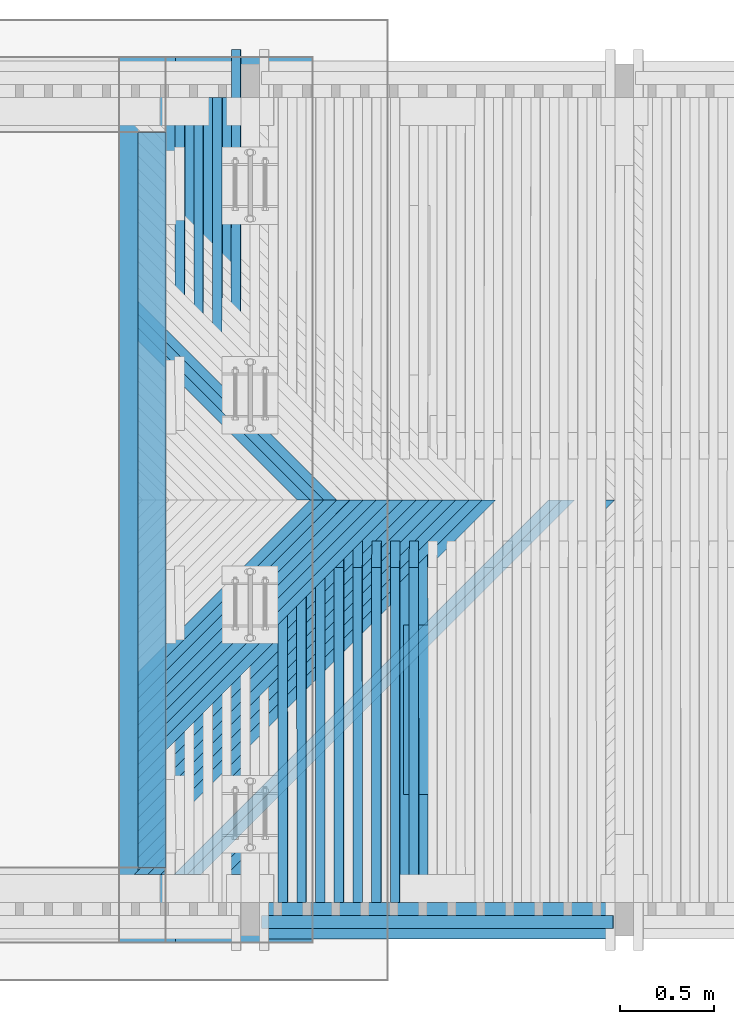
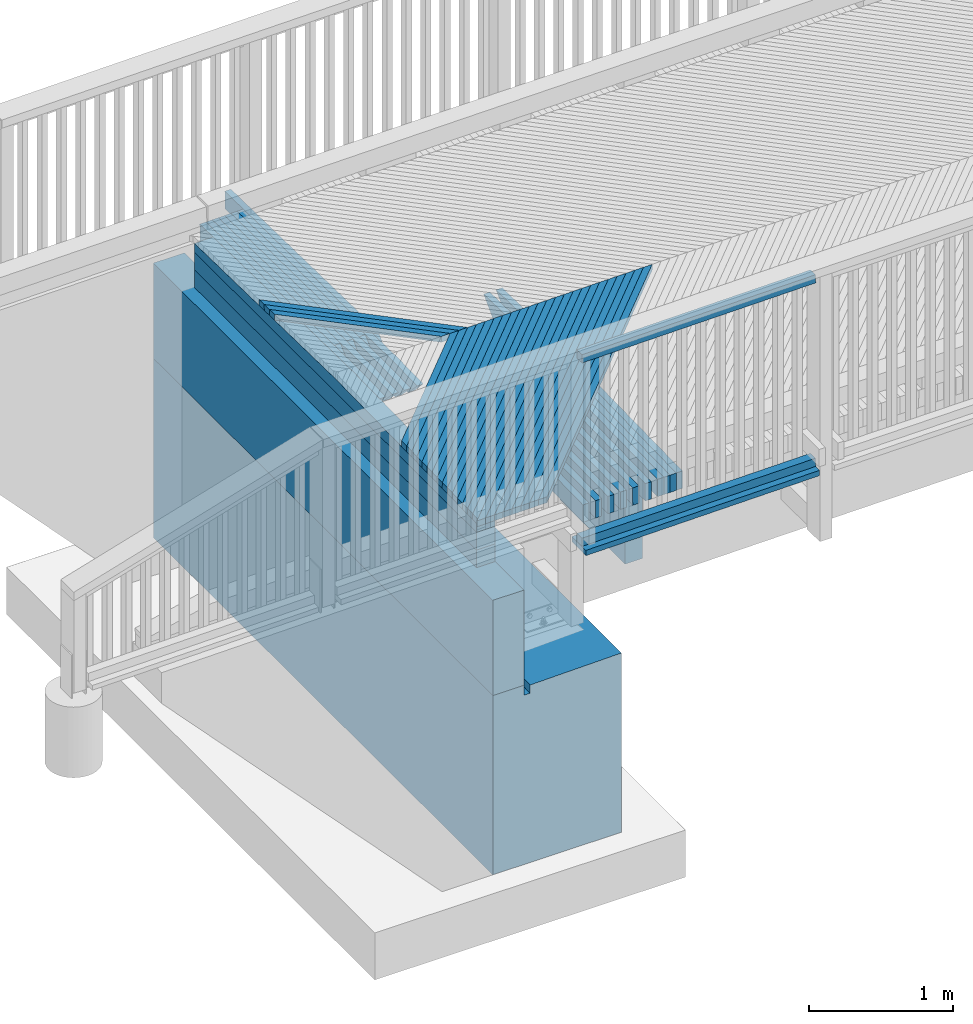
# One storey, part 17 of 52: 53 beams.
"""IFC2X3 building model written with IfcOpenShell, lengths in millimetres."""

from ifc_helpers import new_model, si_unit, frame, origin_with_axes, place, context, subcontext, project, spatial, faceted_brep, material, type_object, element, save


model = new_model("IFC2X3")

# Units and contexts
model_context = context("Model", 3, precision=1e-05, world=origin_with_axes())
body_context = subcontext(model_context, "Body", "Model", "MODEL_VIEW")
ifc_project = project(units=[si_unit("LENGTHUNIT", "METRE", prefix="MILLI"), si_unit("AREAUNIT", "SQUARE_METRE"), si_unit("VOLUMEUNIT", "CUBIC_METRE"), si_unit("MASSUNIT", "GRAM", prefix="KILO"), si_unit("TIMEUNIT", "SECOND"), si_unit("PLANEANGLEUNIT", "RADIAN"), si_unit("SOLIDANGLEUNIT", "STERADIAN"), si_unit("THERMODYNAMICTEMPERATUREUNIT", "DEGREE_CELSIUS"), si_unit("LUMINOUSINTENSITYUNIT", "LUMEN")], contexts=[model_context])

# Site, building, storey
site_placement = place(None, origin_with_axes())
site = spatial("IfcSite", under=ifc_project, at=site_placement, Name="Undefined", CompositionType="ELEMENT")
building_placement = place(site_placement, origin_with_axes())
building = spatial("IfcBuilding", under=site, at=building_placement, Name="Undefined", CompositionType="ELEMENT")
storey_placement = place(building_placement, origin_with_axes())
storey = spatial("IfcBuildingStorey", under=building, at=storey_placement, Name="Undefined", CompositionType="ELEMENT", Elevation=0.0)

# Beams
ifc_material_1 = material(Name="TIMBER/Timber_Undefined")
beam_type_1 = type_object("IfcBeamType", Name="150*150", PredefinedType="NOTDEFINED")
beam_1_placement = place(storey_placement, frame((-525.0, 399.999275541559, 3109.00000000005), z_axis=(-1.0, 0.0, 0.0), x_axis=(0.0, 1.0, 0.0)))
element("IfcBeam", 1, at=beam_1_placement, inside=storey, type_object=beam_type_1, material=ifc_material_1, Name="BEAM", ObjectType="150*150", context=body_context, shape_type="Brep", body=[
    faceted_brep([(3.63797880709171e-12, 75.0000000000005, -75.0), (3.63797880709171e-12, 75.0000000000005, 75.0), (3930.0, 75.0, 75.0), (3930.0, 75.0, -75.0), (3930.0, -0.55802813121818, 75.0), (3930.0, -3.17681141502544, -75.0), (1965.00070282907, -42.4729688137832, -75.0), (0.0, -3.17678330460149, -75.0), (0.0, -0.55800002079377, 75.0), (1965.00070282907, -39.8541855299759, 75.0)], [[[0, 1, 2, 3]], [[3, 2, 4, 5]], [[0, 3, 5, 6, 7]], [[1, 0, 7, 8]], [[4, 2, 1, 8, 9]], [[5, 4, 9, 6]], [[8, 7, 6, 9]]]),
])
for number, where, z_axis, x_axis, name in (
    (2, (-525.0, 399.999275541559, 2959.00000000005), (-1.0, 0.0, 0.0), (0.0, 1.0, 0.0), "BEAM"),
    (3, (-525.0, 399.999275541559, 2809.00000000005), (-1.0, 0.0, 0.0), (0.0, 1.0, 0.0), "BEAM"),
):
    element("IfcBeam", number, at=place(storey_placement, frame(where, z_axis=z_axis, x_axis=x_axis)), inside=storey, type_object=beam_type_1, material=ifc_material_1, Name=name, ObjectType="150*150", context=body_context, shape_type="Brep", body=[
        faceted_brep([(3.63797880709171e-12, 75.0000000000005, -75.0), (3.63797880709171e-12, 75.0000000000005, 75.0), (3930.0, 75.0, 75.0), (3930.0, 75.0, -75.0), (0.0, -75.0000000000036, 75.0000000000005), (3930.0, -75.0, 75.0), (0.0, -75.0, -74.9999999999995), (3930.0, -75.0, -75.0)], [[[0, 1, 2, 3]], [[1, 4, 5, 2]], [[4, 6, 7, 5]], [[6, 0, 3, 7]], [[5, 7, 3, 2]], [[6, 4, 1, 0]]]),
    ])
ifc_material_2 = material(Name="CONCRETE/Concrete_Undefined")
beam_type_2 = type_object("IfcBeamType", Name="810*250", PredefinedType="NOTDEFINED")
beam_2_placement = place(storey_placement, frame((-575.0, 0.0, 2329.0), z_axis=(0.0, 0.0, 1.0), x_axis=(0.0, 1.0, 0.0)))
element("IfcBeam", 4, at=beam_2_placement, inside=storey, type_object=beam_type_2, material=ifc_material_2, Name="OTSAMUURI", ObjectType="810*250", context=body_context, shape_type="Brep", body=[
    faceted_brep([(0.0, 125.0, -405.0), (0.0, 125.0, 405.0), (4730.0, 125.0, 405.0), (4730.0, 125.0, -405.0), (0.0, -125.0, 405.0), (4730.0, -125.0, 405.0), (0.0, -125.0, -405.0), (4730.0, -125.0, -405.0)], [[[0, 1, 2, 3]], [[1, 4, 5, 2]], [[4, 6, 7, 5]], [[6, 0, 3, 7]], [[5, 7, 3, 2]], [[6, 4, 1, 0]]]),
])
beam_type_3 = type_object("IfcBeamType", Name="1524*1035", PredefinedType="NOTDEFINED")
beam_3_placement = place(storey_placement, frame((-182.5, 4.54747350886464e-13, 1162.0), z_axis=(0.0, 0.0, 1.0), x_axis=(0.0, 1.0, 0.0)))
element("IfcBeam", 5, at=beam_3_placement, inside=storey, type_object=beam_type_3, material=ifc_material_2, Name="LAAKERIPALKKI", ObjectType="1524*1035", context=body_context, shape_type="Brep", body=[
    faceted_brep([(4730.0, 267.5, 762.0), (2366.92526672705, 267.5, 762.0), (2367.55223388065, 267.5, 737.442575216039), (4730.0, 267.5, 676.997414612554), (2367.55223388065, 217.5, 737.442575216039), (4730.0, 217.5, 676.997414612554), (4730.0, 217.500000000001, 747.0), (2367.30822656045, 217.5, 747.0), (0.0, 217.5, 676.997414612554), (0.0, 267.5, 676.997414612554), (0.0, 267.5, 762.0), (0.0, 517.5, 762.0), (0.0, 517.5, -762.0), (0.0, -517.5, -762.0), (0.0, -517.5, 762.0), (0.0, 217.5, 747.0), (4730.0, 517.5, -762.0), (4730.0, 517.5, 762.0), (4730.0, -517.5, -762.0), (4730.0, -517.5, 762.0), (2362.69177343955, 217.5, 747.0), (2362.45109111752, 217.5, 737.312339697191), (2362.45109111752, 267.5, 737.312339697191), (2363.07473327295, 267.5, 762.0)], [[[0, 1, 2, 3]], [[3, 2, 4, 5]], [[6, 5, 4, 7]], [[8, 9, 10, 11, 12, 13, 14, 15]], [[16, 12, 11, 17]], [[13, 12, 16, 18]], [[14, 13, 18, 19]], [[20, 15, 14, 19, 6, 7]], [[7, 4, 21, 8, 15, 20]], [[8, 21, 4, 2, 22, 9]], [[23, 10, 9, 22, 2, 1]], [[17, 11, 10, 23, 1, 0]], [[19, 18, 16, 17, 0, 3, 5, 6]]]),
])
beam_type_4 = type_object("IfcBeamType", Name="70*70", PredefinedType="NOTDEFINED")
for number, where, z_axis, x_axis, name in (
    (6, (60.4266460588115, 110.009944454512, 2915.38471475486), (0.0, -1.0, 0.0), (0.999925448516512, 0.0, 0.0122105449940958), "BEAM"),
    (7, (60.4266460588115, 110.009944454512, 4475.38471475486), (0.0, -1.0, 0.0), (0.999925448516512, 0.0, 0.0122105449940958), "BEAM"),
):
    element("IfcBeam", number, at=place(storey_placement, frame(where, z_axis=z_axis, x_axis=x_axis)), inside=storey, type_object=beam_type_4, material=ifc_material_1, Name=name, ObjectType="70*70", context=body_context, shape_type="Brep", body=[
        faceted_brep([(-3.63797880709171e-12, 35.0000000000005, -35.0), (-3.63797880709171e-12, 35.0000000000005, 35.0), (1880.14172547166, 35.0, 35.0), (1880.14172547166, 35.0, -35.0), (-3.63797880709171e-12, -34.9999999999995, 35.0), (1880.14172547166, -35.0, 35.0), (-3.63797880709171e-12, -34.9999999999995, -35.0), (1880.14172547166, -35.0, -35.0)], [[[0, 1, 2, 3]], [[1, 4, 5, 2]], [[4, 6, 7, 5]], [[6, 0, 3, 7]], [[5, 7, 3, 2]], [[6, 4, 1, 0]]]),
    ])
beam_type_5 = type_object("IfcBeamType", Name="945*140", PredefinedType="NOTDEFINED")
beam_4_placement = place(storey_placement, frame((891.0, 1697.5, 2500.3779002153), z_axis=(0.0, 0.0, 1.0), x_axis=(0.0, -1.0, 0.0)))
element("IfcBeam", 8, at=beam_4_placement, inside=storey, type_object=beam_type_5, material=ifc_material_1, Name="PALKKI", ObjectType="945*140", context=body_context, shape_type="Brep", body=[
    faceted_brep([(0.0, 70.0, -472.5), (0.0, 70.0, 472.5), (905.0, 70.0, 472.5), (905.0, 70.0, -472.5), (0.0, -70.0, 472.5), (905.0, -70.0, 472.5), (0.0, -70.0, -472.5), (905.0, -70.0, -472.5)], [[[0, 1, 2, 3]], [[1, 4, 5, 2]], [[4, 6, 7, 5]], [[6, 0, 3, 7]], [[5, 7, 3, 2]], [[6, 4, 1, 0]]]),
])
beam_type_6 = type_object("IfcBeamType", Name="50*50", PredefinedType="NOTDEFINED")
beam_5_placement = place(storey_placement, frame((285.627712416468, 2365.49989967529, 3186.70087009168), z_axis=(0.707221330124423, 0.706981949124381, -0.00380970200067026), x_axis=(-0.70684136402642, 0.706948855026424, -0.0244663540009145)))
element("IfcBeam", 9, at=beam_5_placement, inside=storey, type_object=beam_type_6, material=ifc_material_1, Name="BEAM", ObjectType="50*50", context=body_context, shape_type="Brep", body=[
    faceted_brep([(25.0011701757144, -25.0, -25.0), (-25.0011704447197, -25.0, 24.9999999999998), (-26.4154158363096, 25.0000000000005, 24.9999999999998), (23.5869248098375, 25.0, -25.0000000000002), (1277.43393563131, 25.0000000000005, 25.0), (1227.40705788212, 25.0000000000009, -25.0000000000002), (1228.44010482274, -24.9999999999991, -25.0), (1278.46698257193, -24.9999999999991, 25.0000000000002)], [[[0, 1, 2, 3]], [[3, 2, 4, 5]], [[0, 3, 5, 6]], [[1, 0, 6, 7]], [[2, 1, 7, 4]], [[6, 5, 4, 7]]]),
])
beam_6_placement = place(storey_placement, frame((356.346193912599, 2364.50010032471, 3187.60285202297), z_axis=(0.707220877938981, -0.706981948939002, -0.00389277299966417), x_axis=(-0.706844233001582, -0.706948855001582, -0.0243833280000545)))
element("IfcBeam", 10, at=beam_6_placement, inside=storey, type_object=beam_type_6, material=ifc_material_1, Name="BEAM", ObjectType="50*50", context=body_context, shape_type="Brep", body=[
    faceted_brep([(23.4806436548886, -25.0, -25.0), (-26.4222658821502, -25.0, 24.9999999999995), (-25.0086637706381, 24.9999999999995, 24.9999999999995), (24.894245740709, 25.0, -25.0), (1328.47916507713, 25.0000000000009, -25.0000000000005), (1327.45442860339, -24.9999999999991, -25.0000000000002), (1377.48107131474, -24.9999999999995, 24.9999999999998), (1378.50580778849, 25.0, 24.9999999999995)], [[[0, 1, 2, 3]], [[0, 3, 4, 5]], [[1, 0, 5, 6]], [[2, 1, 6, 7]], [[3, 2, 7, 4]], [[6, 5, 4, 7]]]),
])
beam_7_placement = place(storey_placement, frame((356.346193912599, 2365.49989967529, 3187.60285202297), z_axis=(0.707220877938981, 0.706981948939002, -0.00389277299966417), x_axis=(-0.706844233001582, 0.706948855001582, -0.0243833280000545)))
element("IfcBeam", 11, at=beam_7_placement, inside=storey, type_object=beam_type_6, material=ifc_material_1, Name="BEAM", ObjectType="50*50", context=body_context, shape_type="Brep", body=[
    faceted_brep([(25.0011701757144, -25.0, -25.0), (-25.0011704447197, -25.0, 24.9999999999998), (-26.4154158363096, 25.0000000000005, 24.9999999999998), (23.5869248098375, 25.0, -25.0000000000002), (1377.48107131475, 25.0, 24.9999999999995), (1327.4544286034, 24.9999999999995, -24.9999999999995), (1328.47916507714, -25.0000000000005, -25.0000000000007), (1378.50580778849, -24.9999999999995, 25.0)], [[[0, 1, 2, 3]], [[3, 2, 4, 5]], [[0, 3, 5, 6]], [[1, 0, 6, 7]], [[2, 1, 7, 4]], [[6, 5, 4, 7]]]),
])
beam_8_placement = place(storey_placement, frame((427.06478086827, 2364.50010032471, 3188.49652730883), z_axis=(0.707220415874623, -0.706981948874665, -0.00397584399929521), x_axis=(-0.706847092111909, -0.706948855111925, -0.0243003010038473)))
element("IfcBeam", 12, at=beam_8_placement, inside=storey, type_object=beam_type_6, material=ifc_material_1, Name="BEAM", ObjectType="50*50", context=body_context, shape_type="Brep", body=[
    faceted_brep([(23.4806436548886, -25.0, -25.0), (-26.4222658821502, -25.0, 24.9999999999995), (-25.0086637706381, 24.9999999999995, 24.9999999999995), (24.894245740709, 25.0, -25.0), (1428.51758270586, 24.9999999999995, -25.0), (1427.50115666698, -25.0000000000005, -25.0), (1477.52756434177, -25.0, 24.9999999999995), (1478.54399038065, 24.9999999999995, 24.9999999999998)], [[[0, 1, 2, 3]], [[0, 3, 4, 5]], [[1, 0, 5, 6]], [[2, 1, 6, 7]], [[3, 2, 7, 4]], [[6, 5, 4, 7]]]),
])
beam_9_placement = place(storey_placement, frame((427.06478086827, 2365.49989967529, 3188.49652730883), z_axis=(0.707220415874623, 0.706981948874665, -0.00397584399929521), x_axis=(-0.706847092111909, 0.706948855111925, -0.0243003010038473)))
element("IfcBeam", 13, at=beam_9_placement, inside=storey, type_object=beam_type_6, material=ifc_material_1, Name="BEAM", ObjectType="50*50", context=body_context, shape_type="Brep", body=[
    faceted_brep([(25.0011701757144, -25.0, -25.0), (-25.0011704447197, -25.0, 24.9999999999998), (-26.4154158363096, 25.0000000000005, 24.9999999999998), (23.5869248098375, 25.0, -25.0000000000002), (1477.52756434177, 24.9999999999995, 24.9999999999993), (1427.50115666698, 25.0, -25.0), (1428.51758270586, -25.0, -24.9999999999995), (1478.54399038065, -25.0000000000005, 25.0)], [[[0, 1, 2, 3]], [[3, 2, 4, 5]], [[0, 3, 5, 6]], [[1, 0, 6, 7]], [[2, 1, 7, 4]], [[6, 5, 4, 7]]]),
])
beam_10_placement = place(storey_placement, frame((497.783472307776, 2364.50010032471, 3189.38189593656), z_axis=(0.707219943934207, -0.706981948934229, -0.00405891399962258), x_axis=(-0.706849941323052, -0.706948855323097, -0.024217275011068)))
element("IfcBeam", 14, at=beam_10_placement, inside=storey, type_object=beam_type_6, material=ifc_material_1, Name="BEAM", ObjectType="50*50", context=body_context, shape_type="Brep", body=[
    faceted_brep([(23.4806436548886, -25.0, -25.0), (-26.4222658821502, -25.0, 24.9999999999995), (-25.0086637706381, 24.9999999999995, 24.9999999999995), (24.894245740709, 25.0, -25.0), (1528.55536067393, 25.0000000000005, -25.0), (1527.54724488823, -24.9999999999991, -24.9999999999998), (1577.57341753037, -25.0, 25.0), (1578.58153331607, 25.0, 25.0)], [[[0, 1, 2, 3]], [[0, 3, 4, 5]], [[1, 0, 5, 6]], [[2, 1, 6, 7]], [[3, 2, 7, 4]], [[6, 5, 4, 7]]]),
])
beam_11_placement = place(storey_placement, frame((568.50226725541, 2364.50010032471, 3190.25895789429), z_axis=(0.707219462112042, -0.706981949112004, -0.0041419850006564), x_axis=(-0.706852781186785, -0.706948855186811, -0.0241342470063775)))
element("IfcBeam", 15, at=beam_11_placement, inside=storey, type_object=beam_type_6, material=ifc_material_1, Name="BEAM", ObjectType="50*50", context=body_context, shape_type="Brep", body=[
    faceted_brep([(23.4806436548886, -25.0, -25.0), (-26.4222658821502, -25.0, 24.9999999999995), (-25.0086637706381, 24.9999999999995, 24.9999999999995), (24.894245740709, 25.0, -25.0), (1628.59250041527, 24.9999999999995, -24.9999999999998), (1627.59269495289, -25.0, -25.0), (1677.61863252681, -25.0000000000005, 24.9999999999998), (1678.61843798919, 24.9999999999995, 25.0)], [[[0, 1, 2, 3]], [[0, 3, 4, 5]], [[1, 0, 5, 6]], [[2, 1, 6, 7]], [[3, 2, 7, 4]], [[6, 5, 4, 7]]]),
])
beam_12_placement = place(storey_placement, frame((639.221164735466, 2364.50010032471, 3191.12771316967), z_axis=(0.707218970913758, -0.706981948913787, -0.00422505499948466), x_axis=(-0.70685561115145, -0.70694885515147, -0.0240512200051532)))
element("IfcBeam", 16, at=beam_12_placement, inside=storey, type_object=beam_type_6, material=ifc_material_1, Name="BEAM", ObjectType="50*50", context=body_context, shape_type="Brep", body=[
    faceted_brep([(23.4806436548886, -25.0, -25.0), (-26.4222658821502, -25.0, 24.9999999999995), (-25.0086637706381, 24.9999999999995, 24.9999999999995), (24.894245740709, 25.0, -25.0), (1728.62900598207, 25.0000000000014, -25.0), (1727.63751066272, -24.9999999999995, -25.0), (1777.66321320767, -24.9999999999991, 25.0), (1778.65470852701, 25.0000000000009, 25.0)], [[[0, 1, 2, 3]], [[0, 3, 4, 5]], [[1, 0, 5, 6]], [[2, 1, 6, 7]], [[3, 2, 7, 4]], [[6, 5, 4, 7]]]),
])
beam_13_placement = place(storey_placement, frame((709.940163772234, 2364.50010032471, 3191.98816175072), z_axis=(0.707218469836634, -0.706981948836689, -0.00430812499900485), x_axis=(-0.706858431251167, -0.7069488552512, -0.0239681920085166)))
element("IfcBeam", 17, at=beam_13_placement, inside=storey, type_object=beam_type_6, material=ifc_material_1, Name="BEAM", ObjectType="50*50", context=body_context, shape_type="Brep", body=[
    faceted_brep([(23.4806436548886, -25.0, -25.0), (-26.4222658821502, -25.0, 24.9999999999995), (-25.0086637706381, 24.9999999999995, 24.9999999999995), (24.894245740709, 25.0, -25.0), (1828.66488005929, 25.0, -24.9999999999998), (1827.68169485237, -25.0000000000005, -24.9999999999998), (1877.70716236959, -25.0000000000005, 25.0000000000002), (1878.69034757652, 25.0, 25.0)], [[[0, 1, 2, 3]], [[0, 3, 4, 5]], [[1, 0, 5, 6]], [[2, 1, 6, 7]], [[3, 2, 7, 4]], [[6, 5, 4, 7]]]),
])
beam_14_placement = place(storey_placement, frame((780.659263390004, 2364.50010032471, 3192.8403036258), z_axis=(0.707217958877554, -0.706981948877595, -0.00439119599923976), x_axis=(-0.706861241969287, -0.706948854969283, -0.0238851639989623)))
element("IfcBeam", 18, at=beam_14_placement, inside=storey, type_object=beam_type_6, material=ifc_material_1, Name="BEAM", ObjectType="50*50", context=body_context, shape_type="Brep", body=[
    faceted_brep([(23.4806436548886, -25.0, -25.0), (-26.4222658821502, -25.0, 24.9999999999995), (-25.0086637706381, 24.9999999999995, 24.9999999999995), (24.894245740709, 25.0, -25.0), (1928.70012414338, 25.0, -25.0), (1927.72524901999, -24.9999999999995, -25.0000000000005), (1977.75048147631, -24.9999999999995, 24.9999999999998), (1978.7253565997, 24.9999999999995, 25.0000000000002)], [[[0, 1, 2, 3]], [[0, 3, 4, 5]], [[1, 0, 5, 6]], [[2, 1, 6, 7]], [[3, 2, 7, 4]], [[6, 5, 4, 7]]]),
])
beam_15_placement = place(storey_placement, frame((851.378462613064, 2364.50010032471, 3193.68413878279), z_axis=(0.707217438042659, -0.706981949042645, -0.00447426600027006), x_axis=(-0.706864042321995, -0.706948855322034, -0.0238021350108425)))
element("IfcBeam", 19, at=beam_15_placement, inside=storey, type_object=beam_type_6, material=ifc_material_1, Name="BEAM", ObjectType="50*50", context=body_context, shape_type="Brep", body=[
    faceted_brep([(23.4806436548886, -25.0, -25.0), (-26.4222658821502, -25.0, 24.9999999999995), (-25.0086637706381, 24.9999999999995, 24.9999999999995), (24.894245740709, 25.0, -25.0), (2028.73474369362, 25.0, -25.0), (2027.76817857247, -25.0, -25.0), (2077.79317600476, -25.0000000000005, 25.0), (2078.75974112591, 24.9999999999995, 25.0)], [[[0, 1, 2, 3]], [[0, 3, 4, 5]], [[1, 0, 5, 6]], [[2, 1, 6, 7]], [[3, 2, 7, 4]], [[6, 5, 4, 7]]]),
])
beam_16_placement = place(storey_placement, frame((922.097760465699, 2364.50010032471, 3194.51966721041), z_axis=(0.707216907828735, -0.706981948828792, -0.00455733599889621), x_axis=(-0.706866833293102, -0.706948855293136, -0.0237191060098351)))
element("IfcBeam", 20, at=beam_16_placement, inside=storey, type_object=beam_type_6, material=ifc_material_1, Name="BEAM", ObjectType="50*50", context=body_context, shape_type="Brep", body=[
    faceted_brep([(23.4806436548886, -25.0, -25.0), (-26.4222658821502, -25.0, 24.9999999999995), (-25.0086637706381, 24.9999999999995, 24.9999999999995), (24.894245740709, 25.0, -25.0), (2128.76873875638, 25.0, -25.0000000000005), (2127.81048355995, -25.0, -25.0), (2177.83524597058, -25.0, 25.0), (2178.793501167, 25.0000000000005, 24.9999999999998)], [[[0, 1, 2, 3]], [[0, 3, 4, 5]], [[1, 0, 5, 6]], [[2, 1, 6, 7]], [[3, 2, 7, 4]], [[6, 5, 4, 7]]]),
])
beam_17_placement = place(storey_placement, frame((992.817155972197, 2364.50010032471, 3195.34688889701), z_axis=(0.707216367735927, -0.706981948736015, -0.00464040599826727), x_axis=(-0.706869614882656, -0.706948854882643, -0.0236360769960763)))
element("IfcBeam", 21, at=beam_17_placement, inside=storey, type_object=beam_type_6, material=ifc_material_1, Name="BEAM", ObjectType="50*50", context=body_context, shape_type="Brep", body=[
    faceted_brep([(23.4806436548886, -25.0, -25.0), (-26.4222658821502, -25.0, 24.9999999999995), (-25.0086637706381, 24.9999999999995, 24.9999999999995), (24.894245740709, 25.0, -25.0), (2228.80211195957, 24.9999999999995, -24.9999999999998), (2227.85216660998, -25.0000000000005, -24.9999999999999), (2277.87669396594, -25.0000000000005, 24.9999999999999), (2278.82663931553, 25.0, 25.0000000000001)], [[[0, 1, 2, 3]], [[0, 3, 4, 5]], [[1, 0, 5, 6]], [[2, 1, 6, 7]], [[3, 2, 7, 4]], [[6, 5, 4, 7]]]),
])
beam_18_placement = place(storey_placement, frame((1063.53664815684, 2364.50010032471, 3196.16580383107), z_axis=(0.707215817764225, -0.706981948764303, -0.00472347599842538), x_axis=(-0.706872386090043, -0.706948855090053, -0.0235530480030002)))
element("IfcBeam", 22, at=beam_18_placement, inside=storey, type_object=beam_type_6, material=ifc_material_1, Name="BEAM", ObjectType="50*50", context=body_context, shape_type="Brep", body=[
    faceted_brep([(23.4806436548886, -25.0, -25.0), (-26.4222658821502, -25.0, 24.9999999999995), (-25.0086637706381, 24.9999999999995, 24.9999999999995), (24.894245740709, 25.0, -25.0), (2328.83486921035, 25.0, -24.9999999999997), (2327.89323362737, -25.0000000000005, -24.9999999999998), (2377.91752596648, -25.0000000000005, 24.9999999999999), (2378.85916154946, 25.0, 24.9999999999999)], [[[0, 1, 2, 3]], [[0, 3, 4, 5]], [[1, 0, 5, 6]], [[2, 1, 6, 7]], [[3, 2, 7, 4]], [[6, 5, 4, 7]]]),
])
beam_19_placement = place(storey_placement, frame((1134.25623604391, 2364.50010032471, 3196.97641200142), z_axis=(0.707215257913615, -0.706981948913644, -0.00480654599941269), x_axis=(-0.706875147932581, -0.706948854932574, -0.0234700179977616)))
element("IfcBeam", 23, at=beam_19_placement, inside=storey, type_object=beam_type_6, material=ifc_material_1, Name="BEAM", ObjectType="50*50", context=body_context, shape_type="Brep", body=[
    faceted_brep([(23.4806436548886, -25.0, -25.0), (-26.4222658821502, -25.0, 24.9999999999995), (-25.0086637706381, 24.9999999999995, 24.9999999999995), (24.894245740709, 25.0, -25.0), (2428.8670100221, 24.9999999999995, -24.9999999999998), (2427.93368417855, -25.0, -25.0000000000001), (2477.9577414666, -25.0000000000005, 25.0), (2478.89106731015, 24.9999999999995, 25.0000000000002)], [[[0, 1, 2, 3]], [[0, 3, 4, 5]], [[1, 0, 5, 6]], [[2, 1, 6, 7]], [[3, 2, 7, 4]], [[6, 5, 4, 7]]]),
])
beam_20_placement = place(storey_placement, frame((1204.9759186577, 2364.50010032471, 3197.77871339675), z_axis=(0.707214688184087, -0.706981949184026, -0.00488961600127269), x_axis=(-0.706877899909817, -0.706948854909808, -0.0233869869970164)))
element("IfcBeam", 24, at=beam_20_placement, inside=storey, type_object=beam_type_6, material=ifc_material_1, Name="BEAM", ObjectType="50*50", context=body_context, shape_type="Brep", body=[
    faceted_brep([(23.4806436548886, -25.0, -25.0), (-26.4222658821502, -25.0, 24.9999999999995), (-25.0086637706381, 24.9999999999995, 24.9999999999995), (24.894245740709, 25.0, -25.0), (2528.89853878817, 25.0, -25.0000000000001), (2527.97352265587, -25.0, -25.0000000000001), (2577.99734489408, -24.9999999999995, 24.9999999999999), (2578.92236102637, 25.0, 25.0)], [[[0, 1, 2, 3]], [[0, 3, 4, 5]], [[1, 0, 5, 6]], [[2, 1, 6, 7]], [[3, 2, 7, 4]], [[6, 5, 4, 7]]]),
])
beam_21_placement = place(storey_placement, frame((1275.69569502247, 2364.50010032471, 3198.57270800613), z_axis=(0.707214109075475, -0.70698194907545, -0.00497268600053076), x_axis=(-0.70688064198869, -0.706948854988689, -0.0233039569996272)))
element("IfcBeam", 25, at=beam_21_placement, inside=storey, type_object=beam_type_6, material=ifc_material_1, Name="BEAM", ObjectType="50*50", context=body_context, shape_type="Brep", body=[
    faceted_brep([(23.4806436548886, -25.0, -25.0), (-26.4222658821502, -25.0, 24.9999999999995), (-25.0086637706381, 24.9999999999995, 24.9999999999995), (24.894245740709, 25.0, -25.0), (2628.92945847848, 24.9999999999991, -25.0000000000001), (2628.01275193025, -25.0, -25.0), (2678.0363391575, -25.0, 24.9999999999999), (2678.95304570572, 24.9999999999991, 24.9999999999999)], [[[0, 1, 2, 3]], [[0, 3, 4, 5]], [[1, 0, 5, 6]], [[2, 1, 6, 7]], [[3, 2, 7, 4]], [[6, 5, 4, 7]]]),
])
beam_22_placement = place(storey_placement, frame((1346.41556416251, 2364.50010032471, 3199.3583958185), z_axis=(0.707213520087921, -0.706981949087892, -0.00505575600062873), x_axis=(-0.706883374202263, -0.706948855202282, -0.0232209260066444)))
element("IfcBeam", 26, at=beam_22_placement, inside=storey, type_object=beam_type_6, material=ifc_material_1, Name="BEAM", ObjectType="50*50", context=body_context, shape_type="Brep", body=[
    faceted_brep([(23.4806436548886, -25.0, -25.0), (-26.4222658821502, -25.0, 24.9999999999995), (-25.0086637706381, 24.9999999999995, 24.9999999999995), (24.894245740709, 25.0, -25.0), (2728.95977176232, 24.9999999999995, -25.0000000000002), (2728.0513747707, -25.0000000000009, -25.0000000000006), (2778.07472698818, -25.0000000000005, 24.9999999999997), (2778.98312397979, 24.9999999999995, 25.0)], [[[0, 1, 2, 3]], [[0, 3, 4, 5]], [[1, 0, 5, 6]], [[2, 1, 6, 7]], [[3, 2, 7, 4]], [[6, 5, 4, 7]]]),
])
for number, where, z_axis, x_axis, name in (
    (27, (1417.1355251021, 2364.50010032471, 3200.13577682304), (0.707212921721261, -0.706981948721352, -0.00513882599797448), (-0.706886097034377, -0.706948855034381, -0.0231378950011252), "BEAM"),
    (28, (1487.85557686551, 2364.50010032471, 3200.90485100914), (0.707212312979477, -0.706981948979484, -0.00522189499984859), (-0.706888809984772, -0.70694885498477, -0.0230548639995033), "BEAM"),
    (29, (1558.57571847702, 2364.50010032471, 3201.66561836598), (0.707211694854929, -0.706981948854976, -0.0053049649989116), (-0.706891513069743, -0.706948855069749, -0.0229718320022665), "BEAM"),
    (30, (1629.2959489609, 2364.50010032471, 3202.41807888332), (0.707211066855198, -0.706981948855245, -0.00538803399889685), (-0.706894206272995, -0.706948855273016, -0.0228888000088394), "BEAM"),
    (31, (1700.01626734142, 2364.50010032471, 3203.16223255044), (0.707210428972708, -0.706981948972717, -0.00547110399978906), (-0.706896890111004, -0.706948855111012, -0.0228057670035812), "BEAM"),
    (32, (1770.73667264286, 2364.50010032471, 3203.89807935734), (0.70720978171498, -0.706981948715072, -0.00555417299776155), (-0.706899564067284, -0.706948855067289, -0.0227227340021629), "BEAM"),
    (33, (1841.45716388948, 2364.50010032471, 3204.62561929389), (0.707209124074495, -0.706981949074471, -0.00563724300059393), (-0.706902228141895, -0.706948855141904, -0.0226397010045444), "BEAM"),
    (34, (1912.17774010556, 2364.50010032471, 3205.34485234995), (0.707208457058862, -0.706981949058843, -0.00572031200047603), (-0.706904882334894, -0.706948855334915, -0.0225566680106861), "BEAM"),
):
    element("IfcBeam", number, at=place(storey_placement, frame(where, z_axis=z_axis, x_axis=x_axis)), inside=storey, type_object=beam_type_6, material=ifc_material_1, Name=name, ObjectType="50*50", context=body_context, shape_type="Brep", body=[
        faceted_brep([(24.894245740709, 25.0, -25.0), (-25.0086637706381, 24.9999999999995, 24.9999999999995), (2804.3406783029, 25.0000000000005, 25.0000000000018), (2854.34301907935, 25.0, -24.9999999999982), (-26.4222658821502, -25.0, 24.9999999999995), (2802.92643296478, -25.0, 25.0000000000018), (23.4806436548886, -25.0, -25.0), (2852.92877373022, -25.0, -24.9999999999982)], [[[0, 1, 2, 3]], [[1, 4, 5, 2]], [[4, 6, 7, 5]], [[6, 0, 3, 7]], [[5, 7, 3, 2]], [[6, 4, 1, 0]]]),
    ])
beam_type_7 = type_object("IfcBeamType", Name="195*45", PredefinedType="NOTDEFINED")
beam_23_placement = place(storey_placement, frame((60.2724309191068, 117.509944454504, 2857.88779307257), z_axis=(0.0, -1.0, 0.0), x_axis=(0.999925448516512, 0.0, 0.0122105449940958)))
element("IfcBeam", 35, at=beam_23_placement, inside=storey, type_object=beam_type_7, material=ifc_material_1, Name="BEAM", ObjectType="195*45", context=body_context, shape_type="Brep", body=[
    faceted_brep([(3.63797880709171e-12, 22.4999999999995, -97.5), (3.63797880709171e-12, 22.4999999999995, 97.5), (1880.22135781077, 22.4999999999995, 97.5), (1880.22135781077, 22.4999999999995, -97.5), (1.81898940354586e-12, -22.5000000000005, 97.5), (1880.22135781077, -22.5000000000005, 97.5), (1.81898940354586e-12, -22.5000000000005, -97.5), (1880.22135781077, -22.5000000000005, -97.5)], [[[0, 1, 2, 3]], [[1, 4, 5, 2]], [[4, 6, 7, 5]], [[6, 0, 3, 7]], [[5, 7, 3, 2]], [[6, 4, 1, 0]]]),
])
beam_type_8 = type_object("IfcBeamType", Name="150*50", PredefinedType="NOTDEFINED")
for number, where, z_axis, x_axis, name in (
    (36, (875.515037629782, 216.50460761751, 3050.98345109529), (-0.0119160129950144, -0.0199960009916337, 0.999729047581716), (-0.000238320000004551, 0.99980006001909, 0.0199945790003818), "BEAM"),
    (37, (775.50210878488, 216.50460761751, 3049.79137099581), (-0.0120821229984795, -0.0199960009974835, 0.999727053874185), (-0.000241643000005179, 0.999800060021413, 0.0199945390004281), "BEAM"),
    (38, (675.489379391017, 216.50460761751, 3048.58267323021), (-0.0122482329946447, -0.0199960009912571, 0.999725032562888), (-0.000244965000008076, 0.99980006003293, 0.0199944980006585), "BEAM"),
    (39, (575.476852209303, 216.50460761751, 3047.35735783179), (-0.012414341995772, -0.0199960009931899, 0.99972298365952), (-0.000248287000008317, 0.999800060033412, 0.0199944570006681), "BEAM"),
    (40, (475.464530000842, 216.50460761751, 3046.11542483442), (-0.0125804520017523, -0.0199960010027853, 0.999720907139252), (-0.000251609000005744, 0.999800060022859, 0.0199944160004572), "BEAM"),
    (41, (375.452415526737, 216.50460761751, 3044.85687427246), (-0.0127465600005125, -0.0199960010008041, 0.9997188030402), (-0.000254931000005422, 0.999800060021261, 0.0199943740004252), "BEAM"),
    (42, (275.44051154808, 216.50460761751, 3043.58170618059), (-0.0129126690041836, -0.0199960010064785, 0.999716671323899), (-0.000258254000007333, 0.99980006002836, 0.0199943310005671), "BEAM"),
    (43, (175.42882082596, 216.50460761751, 3042.28992059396), (-0.0130787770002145, -0.0199960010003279, 0.999714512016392), (-0.00026157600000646, 0.999800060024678, 0.0199942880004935), "BEAM"),
):
    element("IfcBeam", number, at=place(storey_placement, frame(where, z_axis=z_axis, x_axis=x_axis)), inside=storey, type_object=beam_type_8, material=ifc_material_1, Name=name, ObjectType="150*50", context=body_context, shape_type="Brep", body=[
        faceted_brep([(-1.67788130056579e-07, -24.9999999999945, -74.9999999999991), (1.67786311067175e-07, -24.9999999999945, 75.0000000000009), (1.67786311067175e-07, 25.0000000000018, 75.0), (-1.67787220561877e-07, 25.0000000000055, -75.0), (1928.42646353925, -25.0, -75.0), (1789.96936433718, -25.0000000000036, 74.9999999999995), (1789.96936408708, 24.9999999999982, 75.0000000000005), (1928.42646328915, 24.9999999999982, -74.9999999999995)], [[[0, 1, 2, 3]], [[1, 0, 4, 5]], [[2, 1, 5, 6]], [[3, 2, 6, 7]], [[0, 3, 7, 4]], [[7, 6, 5, 4]]]),
    ])
for number, where, z_axis, x_axis, name in (
    (44, (925.531616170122, 216.504607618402, 3051.5713008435), (-0.011749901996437, -0.0199960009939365, 0.999731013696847), (-0.000234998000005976, 0.99980006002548, 0.0199946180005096), "BEAM"),
    (45, (825.518588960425, 216.504607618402, 3050.38753125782), (-0.0119160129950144, -0.0199960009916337, 0.999729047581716), (-0.000238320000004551, 0.99980006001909, 0.0199945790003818), "BEAM"),
):
    element("IfcBeam", number, at=place(storey_placement, frame(where, z_axis=z_axis, x_axis=x_axis)), inside=storey, type_object=beam_type_8, material=ifc_material_1, Name=name, ObjectType="150*50", context=body_context, shape_type="Brep", body=[
        faceted_brep([(-1.67788130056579e-07, -24.9999999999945, -74.9999999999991), (1.67786311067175e-07, -24.9999999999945, 75.0000000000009), (1.67786311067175e-07, 25.0000000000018, 75.0), (-1.67787220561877e-07, 25.0000000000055, -75.0), (2375.00494422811, 25.0000000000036, -74.9999999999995), (2375.0049444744, -24.9999999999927, -74.9999999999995), (2510.5924871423, -24.9999999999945, 60.5875430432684), (2150.42514405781, -24.9999999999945, 75.0000000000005), (2150.42515052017, 25.0000000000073, 75.0), (2510.59248715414, 25.0000000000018, 60.5875433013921)], [[[0, 1, 2, 3]], [[0, 3, 4, 5]], [[1, 0, 5, 6, 7]], [[2, 1, 7, 8]], [[4, 3, 2, 8, 9]], [[5, 4, 9, 6]], [[6, 9, 8, 7]]]),
    ])
for number, where, z_axis, x_axis, name in (
    (46, (-424.636690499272, 4513.4953923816, 3034.19024171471), (-0.0140754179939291, 0.0199960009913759, 0.999700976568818), (-0.00028150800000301, -0.999800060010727, 0.0199940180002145), "BEAM"),
    (47, (-324.626337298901, 4513.4953923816, 3035.58173150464), (-0.0139093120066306, 0.0199960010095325, 0.999703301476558), (-0.000278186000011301, -0.999800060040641, 0.0199940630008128), "BEAM"),
    (48, (-224.615754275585, 4513.4953923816, 3036.95660402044), (-0.0137432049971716, 0.0199960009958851, 0.999705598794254), (-0.000274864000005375, -0.999800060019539, 0.0199941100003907), "BEAM"),
    (49, (-124.60494419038, 4513.4953923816, 3038.31485922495), (-0.0135770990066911, 0.0199960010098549, 0.999707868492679), (-0.000271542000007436, -0.999800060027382, 0.0199941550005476), "BEAM"),
):
    element("IfcBeam", number, at=place(storey_placement, frame(where, z_axis=z_axis, x_axis=x_axis)), inside=storey, type_object=beam_type_8, material=ifc_material_1, Name=name, ObjectType="150*50", context=body_context, shape_type="Brep", body=[
        faceted_brep([(-1.67788130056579e-07, -24.9999999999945, -74.9999999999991), (-1.67787220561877e-07, 25.0000000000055, -75.0), (2375.00494422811, 25.0000000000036, -74.9999999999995), (2375.0049444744, -24.9999999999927, -74.9999999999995), (1.67786311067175e-07, -24.9999999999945, 75.0000000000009), (1.67786311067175e-07, 25.0000000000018, 75.0), (2150.42515052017, 25.0000000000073, 75.0), (2510.59248715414, 25.0000000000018, 60.5875433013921), (2510.5924871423, -24.9999999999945, 60.5875430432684), (2150.42514405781, -24.9999999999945, 75.0000000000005)], [[[0, 1, 2, 3]], [[0, 4, 5, 1]], [[2, 1, 5, 6, 7]], [[3, 2, 7, 8]], [[4, 0, 3, 8, 9]], [[5, 4, 9, 6]], [[8, 7, 6, 9]]]),
    ])
for number, where, z_axis, x_axis, name in (
    (50, (-374.621498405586, 4513.49539238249, 3034.88612679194), (-0.0139093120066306, 0.0199960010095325, 0.999703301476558), (-0.000278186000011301, -0.999800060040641, 0.0199940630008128), "BEAM"),
    (51, (-274.611030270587, 4513.49539238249, 3036.26930628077), (-0.0137432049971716, 0.0199960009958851, 0.999705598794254), (-0.000274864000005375, -0.999800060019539, 0.0199941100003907), "BEAM"),
    (52, (-174.600333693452, 4513.49539238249, 3037.6358684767), (-0.0135770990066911, 0.0199960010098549, 0.999707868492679), (-0.000271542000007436, -0.999800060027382, 0.0199941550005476), "BEAM"),
):
    element("IfcBeam", number, at=place(storey_placement, frame(where, z_axis=z_axis, x_axis=x_axis)), inside=storey, type_object=beam_type_8, material=ifc_material_1, Name=name, ObjectType="150*50", context=body_context, shape_type="Brep", body=[
        faceted_brep([(-1.67788130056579e-07, -24.9999999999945, -74.9999999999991), (1.67786311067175e-07, -24.9999999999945, 75.0000000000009), (1.67786311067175e-07, 25.0000000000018, 75.0), (-1.67787220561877e-07, 25.0000000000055, -75.0), (1928.42646328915, 24.9999999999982, -74.9999999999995), (1928.42646353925, -25.0, -75.0), (1789.96936433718, -25.0000000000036, 74.9999999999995), (1789.96936408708, 24.9999999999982, 75.0000000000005)], [[[0, 1, 2, 3]], [[0, 3, 4, 5]], [[1, 0, 5, 6]], [[2, 1, 6, 7]], [[3, 2, 7, 4]], [[4, 7, 6, 5]]]),
    ])
beam_24_placement = place(storey_placement, frame((-74.521067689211, 4771.44380785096, 3033.82729839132), z_axis=(-0.0134109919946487, 0.0199960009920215, 0.999710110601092), x_axis=(-0.000268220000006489, -0.999800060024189, 0.0199942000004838)))
element("IfcBeam", 53, at=beam_24_placement, inside=storey, type_object=beam_type_8, material=ifc_material_1, Name="BEAM", ObjectType="150*50", context=body_context, shape_type="Brep", body=[
    faceted_brep([(-1.67788130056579e-07, -24.9999999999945, -74.9999999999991), (1.67786311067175e-07, -24.9999999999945, 75.0000000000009), (1.67786311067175e-07, 25.0000000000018, 75.0), (-1.67787220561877e-07, 25.0000000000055, -75.0), (2186.42646676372, 24.9999999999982, -75.0), (2186.42645144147, -25.0, -75.0), (2047.96935255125, -25.0, 75.0), (2047.9693678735, 25.0, 75.0)], [[[0, 1, 2, 3]], [[0, 3, 4, 5]], [[1, 0, 5, 6]], [[2, 1, 6, 7]], [[3, 2, 7, 4]], [[4, 7, 6, 5]]]),
])

save(model, "model.ifc")
